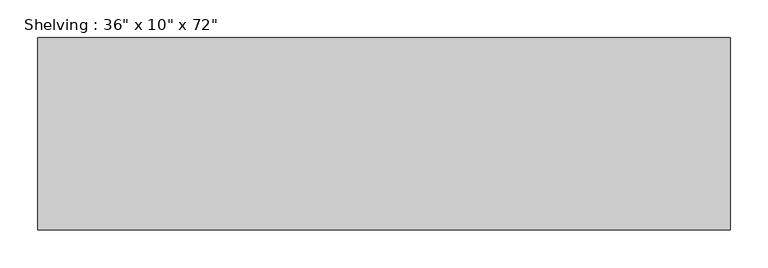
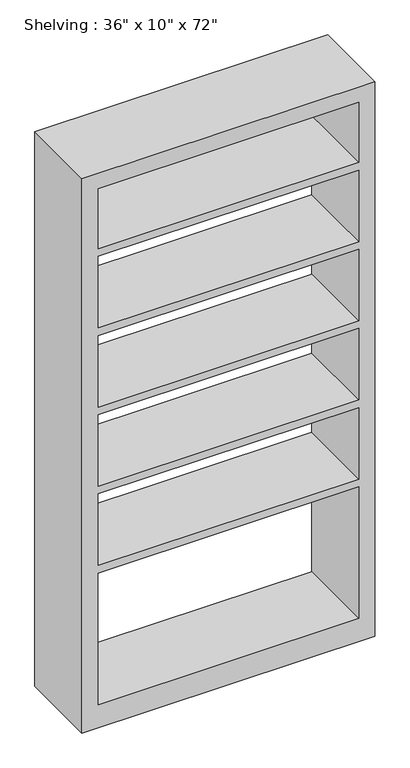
"""IFC4 building model written with IfcOpenShell, lengths in millimetres: furniture geometry."""

import ifcopenshell
import ifcopenshell.guid

model = None  # the IFC model being written
_history = None  # IfcOwnerHistory: only IFC2X3 demands one
_inside = {}  # id of a spatial element -> (the spatial element, [elements in it])
_under = {}  # id of a project, library or spatial element -> (it, [spatial elements below it])
_declared = {}  # id of a project -> (the project, [libraries it declares])
_typed = {}  # id of a type object -> (the type object, [elements of that type])
_made_of = {}  # id of a material, layer set ... -> (it, [elements and type objects made of it])


def new_model(schema):
    """Start an empty IFC model of exactly this schema.

    Asked for "IFC4X3", IfcOpenShell would pick the latest addendum, in which some entities
    have other attributes; the version numbers below select the first issue.
    IFC2X3 requires an IfcOwnerHistory on every rooted entity: one is made here for all.
    """
    global model, _history
    if schema == "IFC4X3":
        model = ifcopenshell.file(schema_version=(4, 3, 0, 0))
    else:
        model = ifcopenshell.file(schema=schema)
    _inside.clear()
    _under.clear()
    _declared.clear()
    _typed.clear()
    _made_of.clear()
    _history = None
    if model.schema == "IFC2X3":
        org = make("IfcOrganization", Name="unknown")
        user = make(
            "IfcPersonAndOrganization",
            ThePerson=make("IfcPerson", FamilyName="unknown"),
            TheOrganization=org,
        )
        app = make(
            "IfcApplication",
            ApplicationDeveloper=org,
            Version="unknown",
            ApplicationFullName="unknown",
            ApplicationIdentifier="unknown",
        )
        _history = make(
            "IfcOwnerHistory",
            OwningUser=user,
            OwningApplication=app,
            ChangeAction="ADDED",
            CreationDate=0,
        )
    return model


def make(cls, **values):
    """One entity of the class cls with the attributes given. An attribute that is None is left unset."""
    return model.create_entity(
        cls, **{name: value for name, value in values.items() if value is not None}
    )


def rooted(cls, **values):
    """An entity with a GlobalId (a new one), such as an element, a storey or a relation."""
    return make(cls, GlobalId=ifcopenshell.guid.new(), OwnerHistory=_history, **values)


def si_unit(unit_type, name, prefix=None):
    """IfcSIUnit, for example si_unit("LENGTHUNIT", "METRE", prefix="MILLI")."""
    return make("IfcSIUnit", UnitType=unit_type, Prefix=prefix, Name=name)


def assignment(units):
    """IfcUnitAssignment: the units of a project."""
    return None if units is None else make("IfcUnitAssignment", Units=units)


def point(xyz):
    """IfcCartesianPoint."""
    return None if xyz is None else make("IfcCartesianPoint", Coordinates=xyz)


def direction(xyz):
    """IfcDirection."""
    return None if xyz is None else make("IfcDirection", DirectionRatios=xyz)


def frame(location, z_axis=None, x_axis=None):
    """IfcAxis2Placement3D, a coordinate frame: its origin and axes. An axis left out is left unset."""
    return make(
        "IfcAxis2Placement3D",
        Location=point(location),
        Axis=direction(z_axis),
        RefDirection=direction(x_axis),
    )


def origin():
    """The frame at (0, 0, 0) with its axes left unset."""
    return frame((0.0, 0.0, 0.0))


def place(relative_to, where):
    """IfcLocalPlacement: puts the frame where relative to a parent placement (None: the world)."""
    return make(
        "IfcLocalPlacement", PlacementRelTo=relative_to, RelativePlacement=where
    )


def context(
    kind, dimensions, precision=None, world=None, true_north=None, identifier=None
):
    """IfcGeometricRepresentationContext, for example the 3D "Model" context."""
    return make(
        "IfcGeometricRepresentationContext",
        ContextIdentifier=identifier,
        ContextType=kind,
        CoordinateSpaceDimension=dimensions,
        Precision=precision,
        WorldCoordinateSystem=world,
        TrueNorth=true_north,
    )


def project(units=None, contexts=None):
    """IfcProject with its units and contexts."""
    return rooted(
        "IfcProject",
        Name="project",
        RepresentationContexts=contexts,
        UnitsInContext=assignment(units),
    )


def spatial(cls, under=None, at=None, **own):
    """A site, building, storey or space (cls), placed at a placement, below another one or the project."""
    s = rooted(cls, ObjectPlacement=at, **own)
    if under is not None:
        _under.setdefault(under.id(), (under, []))[1].append(s)
    return s


def polyline(points):
    """IfcPolyline through the points."""
    return make("IfcPolyline", Points=[point(p) for p in points])


def outline(outer, holes=None, kind="AREA"):
    """IfcArbitraryClosedProfileDef: a profile drawn as a closed curve; with holes, ...WithVoids."""
    if holes is None:
        return make("IfcArbitraryClosedProfileDef", ProfileType=kind, OuterCurve=outer)
    return make(
        "IfcArbitraryProfileDefWithVoids",
        ProfileType=kind,
        OuterCurve=outer,
        InnerCurves=holes,
    )


def extrude(swept, where, along, depth):
    """IfcExtrudedAreaSolid: the profile swept, set in the frame where, extruded along a direction by depth."""
    return make(
        "IfcExtrudedAreaSolid",
        SweptArea=swept,
        Position=where,
        ExtrudedDirection=direction(along),
        Depth=depth,
    )


def shape(context_of_items, identifier, shape_type, items):
    """IfcShapeRepresentation: the items that make up one representation, for example the "Body"."""
    return make(
        "IfcShapeRepresentation",
        ContextOfItems=context_of_items,
        RepresentationIdentifier=identifier,
        RepresentationType=shape_type,
        Items=items,
    )


def source(mapping_origin, context_of_items, identifier, shape_type, items):
    """IfcRepresentationMap: a shape defined once, which mapped items show again and again."""
    return make(
        "IfcRepresentationMap",
        MappingOrigin=mapping_origin,
        MappedRepresentation=shape(context_of_items, identifier, shape_type, items),
    )


def transform(
    local_origin,
    x_axis=None,
    y_axis=None,
    z_axis=None,
    scale=None,
    scale2=None,
    scale3=None,
    uniform=True,
):
    """IfcCartesianTransformationOperator3D, or its non-uniform kind. x_axis, y_axis, z_axis: its Axis1, 2, 3."""
    if uniform:
        return make(
            "IfcCartesianTransformationOperator3D",
            Axis1=direction(x_axis),
            Axis2=direction(y_axis),
            LocalOrigin=point(local_origin),
            Scale=scale,
            Axis3=direction(z_axis),
        )
    return make(
        "IfcCartesianTransformationOperator3DnonUniform",
        Axis1=direction(x_axis),
        Axis2=direction(y_axis),
        LocalOrigin=point(local_origin),
        Scale=scale,
        Axis3=direction(z_axis),
        Scale2=scale2,
        Scale3=scale3,
    )


def mapped(mapping_source, mapping_target):
    """IfcMappedItem: shows the shape of a source again, moved by a transform."""
    return make(
        "IfcMappedItem", MappingSource=mapping_source, MappingTarget=mapping_target
    )


def made_of(thing, what):
    """Note that an element or type object is made of a material, layer set ...; save() writes the relation."""
    if what is not None:
        _made_of.setdefault(what.id(), (what, []))[1].append(thing)
    return thing


def element(
    cls,
    number,
    at=None,
    inside=None,
    cuts=None,
    type_object=None,
    material=None,
    context=None,
    identifier="Body",
    shape_type=None,
    held_by="IfcProductDefinitionShape",
    body=None,
    shapes=None,
    **own,
):
    """One element of the class cls, such as IfcWall. Its Tag is "e" and its number.

    at: its placement. inside: the storey or other place that contains it. cuts: it is an
    opening in that element (IfcRelVoidsElement). A single representation is given by context,
    identifier, shape_type and body (its items); several are given by shapes. held_by: the class
    of the entity that holds the representations. save() writes the other relations.
    """
    e = rooted(cls, Tag="e%d" % number, ObjectPlacement=at, **own)
    if body is not None:
        shapes = [shape(context, identifier, shape_type, body)]
    if shapes is not None:
        e.Representation = make(held_by, Representations=shapes)
    if inside is not None:
        _inside.setdefault(inside.id(), (inside, []))[1].append(e)
    if cuts is not None:
        rooted(
            "IfcRelVoidsElement", RelatingBuildingElement=cuts, RelatedOpeningElement=e
        )
    if type_object is not None:
        _typed.setdefault(type_object.id(), (type_object, []))[1].append(e)
    return made_of(e, material)


def aggregate(whole, parts):
    """IfcRelAggregates: a whole, such as a stair, and the parts it consists of."""
    return rooted("IfcRelAggregates", RelatingObject=whole, RelatedObjects=parts)


def save(model, path):
    """Write the relations noted so far, then the file.

    IfcRelAggregates (storeys below a building ...), IfcRelContainedInSpatialStructure (elements
    in a storey), IfcRelDefinesByType, IfcRelAssociatesMaterial and IfcRelDeclares: one each for
    every whole, place, type object, material and project.
    """
    for whole, parts in _under.values():
        aggregate(whole, parts)
    for where, things in _inside.values():
        rooted(
            "IfcRelContainedInSpatialStructure",
            RelatedElements=things,
            RelatingStructure=where,
        )
    for kind, things in _typed.values():
        rooted("IfcRelDefinesByType", RelatedObjects=things, RelatingType=kind)
    for what, things in _made_of.values():
        rooted("IfcRelAssociatesMaterial", RelatedObjects=things, RelatingMaterial=what)
    for by, libraries in _declared.values():
        rooted("IfcRelDeclares", RelatingContext=by, RelatedDefinitions=libraries)
    model.write(path)


def furniture_417d203a(model_context):
    return source(origin(), model_context, "Body", "SweptSolid", [
        extrude(outline(polyline([(0.0, 457.2), (1828.8, 457.2), (1828.8, -457.2), (0.0, -457.2), (0.0, 457.2)]), holes=[polyline([(1778.0, 406.4), (1580.2428571, 406.4), (1580.2428571, -406.4), (1778.0, -406.4), (1778.0, 406.4)]), polyline([(76.2, 406.4), (76.2, -406.4), (509.8142857, -406.4), (509.8142857, 406.4), (76.2, 406.4)]), polyline([(1057.7285714, -406.4), (1293.5857143, -406.4), (1293.5857143, 406.4), (1057.7285714, 406.4), (1057.7285714, -406.4)]), polyline([(1554.8428571, 406.4), (1318.9857143, 406.4), (1318.9857143, -406.4), (1554.8428571, -406.4), (1554.8428571, 406.4)]), polyline([(1032.3285714, 406.4), (796.4714286, 406.4), (796.4714286, -406.4), (1032.3285714, -406.4), (1032.3285714, 406.4)]), polyline([(771.0714286, 406.4), (535.2142857, 406.4), (535.2142857, -406.4), (771.0714286, -406.4), (771.0714286, 406.4)])]), frame((0.0, -431.8, 0.0), z_axis=(0.0, 1.0, 0.0), x_axis=(0.0, 0.0, 1.0)), (0.0, 0.0, 1.0), 254.0),
    ])


if __name__ == "__main__":
    model = new_model("IFC4")
    model_context = context("Model", 3, world=origin())
    ifc_project = project(units=[si_unit("LENGTHUNIT", "METRE", prefix="MILLI")], contexts=[model_context])
    site = spatial("IfcSite", under=ifc_project)
    building = spatial("IfcBuilding", under=site)
    placement = place(None, origin())
    furniture_shape = furniture_417d203a(model_context)
    element("IfcFurniture", 1, ObjectType="Shelving : 36\" x 10\" x 72\"", at=placement, inside=building, context=model_context, shape_type="MappedRepresentation", body=[
        mapped(furniture_shape, transform((0.0, 0.0, 0.0), x_axis=(1.0, 0.0, 0.0), y_axis=(0.0, 1.0, 0.0), z_axis=(0.0, 0.0, 1.0))),
    ])
    save(model, "model.ifc")
